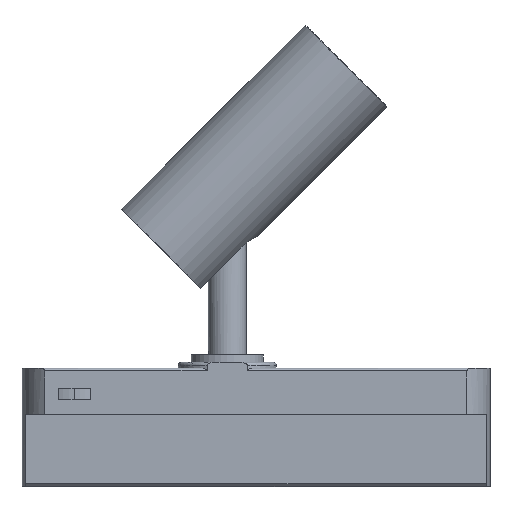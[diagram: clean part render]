
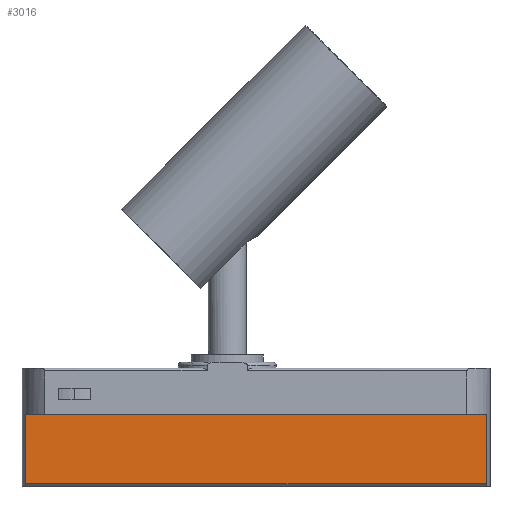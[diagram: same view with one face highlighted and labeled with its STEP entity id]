
A CAD part, left-side view. The second image highlights one B-rep face of the part: STEP entity #3016.
In plain terms, the highlighted planar face has unit normal (-1, 0, 0) as drawn and (1, 0, 0) by its records, which use the part's own axes.
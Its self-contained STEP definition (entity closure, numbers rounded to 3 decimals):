
#189=PLANE('',#3363);
#362=FACE_OUTER_BOUND('',#550,.T.);
#550=EDGE_LOOP('',(#2703,#2704,#2705,#2706));
#929=LINE('',#5245,#1175);
#932=LINE('',#5266,#1178);
#953=LINE('',#5484,#1199);
#956=LINE('',#5489,#1202);
#1175=VECTOR('',#4177,304.8);
#1178=VECTOR('',#4196,304.8);
#1199=VECTOR('',#4255,304.8);
#1202=VECTOR('',#4262,304.8);
#1436=VERTEX_POINT('',#5242);
#1437=VERTEX_POINT('',#5244);
#1446=VERTEX_POINT('',#5263);
#1447=VERTEX_POINT('',#5265);
#1842=EDGE_CURVE('',#1437,#1436,#929,.T.);
#1852=EDGE_CURVE('',#1447,#1446,#932,.T.);
#1892=EDGE_CURVE('',#1446,#1437,#953,.T.);
#1895=EDGE_CURVE('',#1436,#1447,#956,.T.);
#2703=ORIENTED_EDGE('',*,*,#1842,.T.);
#2704=ORIENTED_EDGE('',*,*,#1895,.T.);
#2705=ORIENTED_EDGE('',*,*,#1852,.T.);
#2706=ORIENTED_EDGE('',*,*,#1892,.T.);
#3016=ADVANCED_FACE('',(#362),#189,.F.);
#3363=AXIS2_PLACEMENT_3D('',#5490,#4263,#4264);
#4177=DIRECTION('',(0.,0.,1.));
#4196=DIRECTION('',(0.,0.,-1.));
#4255=DIRECTION('',(0.,1.,0.));
#4262=DIRECTION('',(0.,-1.,0.));
#4263=DIRECTION('center_axis',(-1.,0.,0.));
#4264=DIRECTION('ref_axis',(0.,-1.,0.));
#5242=CARTESIAN_POINT('',(7.,89.641,-0.313));
#5244=CARTESIAN_POINT('',(7.,89.641,-24.313));
#5245=CARTESIAN_POINT('',(7.,89.641,-24.313));
#5263=CARTESIAN_POINT('',(7.,-69.748,-24.313));
#5265=CARTESIAN_POINT('',(7.,-69.748,-0.313));
#5266=CARTESIAN_POINT('',(7.,-69.748,-0.313));
#5484=CARTESIAN_POINT('',(7.,-69.748,-24.313));
#5489=CARTESIAN_POINT('',(7.,89.641,-0.313));
#5490=CARTESIAN_POINT('Origin',(7.,102.234,-24.313));
